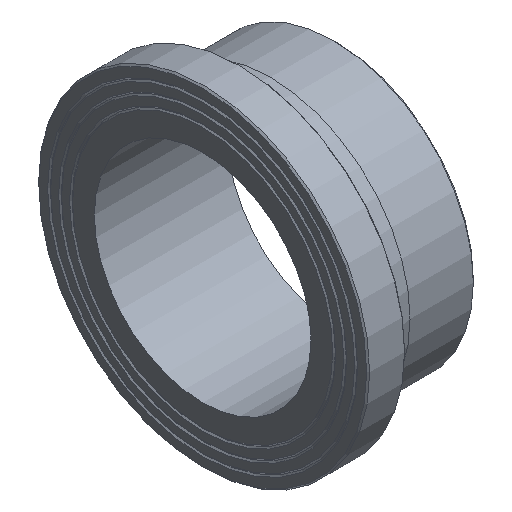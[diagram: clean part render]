
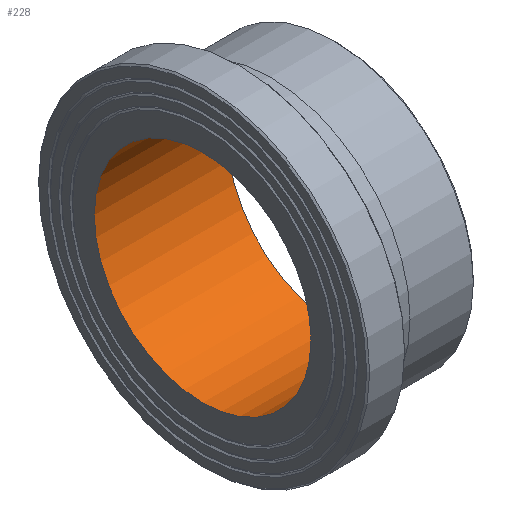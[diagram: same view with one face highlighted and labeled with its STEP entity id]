
A CAD part, isometric view. The second image highlights one B-rep face of the part: STEP entity #228.
In plain terms, the highlighted cylindrical face has radius 108.7 mm (diameter 217.4 mm), a full revolution.
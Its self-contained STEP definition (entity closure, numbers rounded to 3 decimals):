
#33=CYLINDRICAL_SURFACE('',#274,108.7);
#50=ORIENTED_EDGE('',*,*,#79,.F.);
#51=ORIENTED_EDGE('',*,*,#76,.T.);
#76=EDGE_CURVE('',#96,#96,#116,.T.);
#79=EDGE_CURVE('',#99,#99,#119,.T.);
#96=VERTEX_POINT('',#383);
#99=VERTEX_POINT('',#390);
#116=CIRCLE('',#257,108.7);
#119=CIRCLE('',#261,108.7);
#150=EDGE_LOOP('',(#50));
#151=EDGE_LOOP('',(#51));
#190=FACE_BOUND('',#150,.T.);
#191=FACE_BOUND('',#151,.T.);
#228=ADVANCED_FACE('',(#190,#191),#33,.F.);
#257=AXIS2_PLACEMENT_3D('',#382,#303,#304);
#261=AXIS2_PLACEMENT_3D('',#389,#311,#312);
#274=AXIS2_PLACEMENT_3D('',#410,#337,#338);
#303=DIRECTION('',(-1.,0.,0.));
#304=DIRECTION('',(0.,0.,1.));
#311=DIRECTION('',(-1.,0.,0.));
#312=DIRECTION('',(0.,0.,1.));
#337=DIRECTION('',(-1.,0.,0.));
#338=DIRECTION('',(0.,0.,1.));
#382=CARTESIAN_POINT('',(0.,0.,0.));
#383=CARTESIAN_POINT('',(0.,0.,108.7));
#389=CARTESIAN_POINT('',(134.,0.,0.));
#390=CARTESIAN_POINT('',(134.,0.,108.7));
#410=CARTESIAN_POINT('',(60.,0.,0.));
